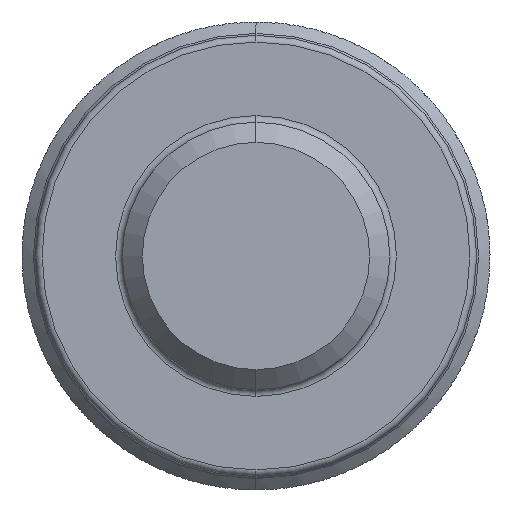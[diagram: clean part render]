
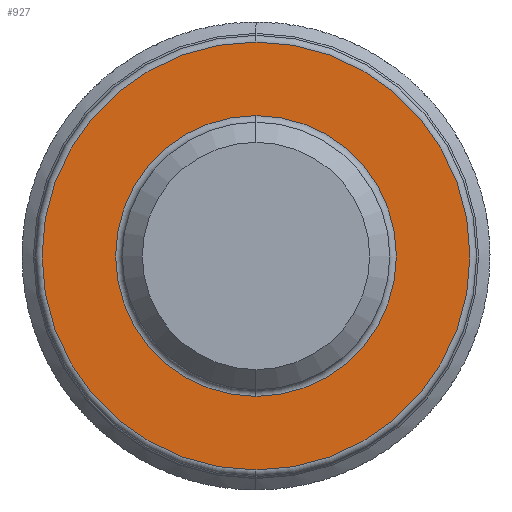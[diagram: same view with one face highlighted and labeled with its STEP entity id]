
A CAD part, front view. The second image highlights one B-rep face of the part: STEP entity #927.
In plain terms, the highlighted planar face has unit normal (0, -1, 0).
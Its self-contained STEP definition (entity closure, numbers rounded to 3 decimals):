
#403 = EDGE_CURVE ( 'NONE', #805, #8025, #4741, .T. ) ;
#424 = EDGE_LOOP ( 'NONE', ( #5488, #526 ) ) ;
#526 = ORIENTED_EDGE ( 'NONE', *, *, #403, .T. ) ;
#687 = DIRECTION ( 'NONE',  ( 0., 1., 0. ) ) ;
#805 = VERTEX_POINT ( 'NONE', #8438 ) ;
#877 = EDGE_CURVE ( 'NONE', #4051, #5527, #8705, .T. ) ;
#927 = ADVANCED_FACE ( 'NONE', ( #5892, #3437 ), #7300, .T. ) ;
#1227 = DIRECTION ( 'NONE',  ( 0., 1., 0. ) ) ;
#1918 = DIRECTION ( 'NONE',  ( 0., -1., 0. ) ) ;
#1919 = DIRECTION ( 'NONE',  ( 0., 0., -1. ) ) ;
#2620 = DIRECTION ( 'NONE',  ( 0., -1., 0. ) ) ;
#3217 = AXIS2_PLACEMENT_3D ( 'NONE', #4771, #687, #3974 ) ;
#3322 = DIRECTION ( 'NONE',  ( 0., 0., -1. ) ) ;
#3437 = FACE_OUTER_BOUND ( 'NONE', #424, .T. ) ;
#3974 = DIRECTION ( 'NONE',  ( 0., 0., -1. ) ) ;
#4051 = VERTEX_POINT ( 'NONE', #4980 ) ;
#4376 = CIRCLE ( 'NONE', #9872, 2.1 ) ;
#4395 = DIRECTION ( 'NONE',  ( 0., 0., -1. ) ) ;
#4407 = AXIS2_PLACEMENT_3D ( 'NONE', #6052, #1918, #4395 ) ;
#4460 = EDGE_CURVE ( 'NONE', #8025, #805, #7977, .T. ) ;
#4564 = CARTESIAN_POINT ( 'NONE',  ( 0., -4., 0. ) ) ;
#4640 = ORIENTED_EDGE ( 'NONE', *, *, #877, .T. ) ;
#4741 = CIRCLE ( 'NONE', #4407, 3.2 ) ;
#4771 = CARTESIAN_POINT ( 'NONE',  ( 0., -4., 0. ) ) ;
#4980 = CARTESIAN_POINT ( 'NONE',  ( 0., -4., -2.1 ) ) ;
#5167 = CARTESIAN_POINT ( 'NONE',  ( 0., -4., -3.2 ) ) ;
#5488 = ORIENTED_EDGE ( 'NONE', *, *, #4460, .T. ) ;
#5527 = VERTEX_POINT ( 'NONE', #10233 ) ;
#5892 = FACE_BOUND ( 'NONE', #8432, .T. ) ;
#6052 = CARTESIAN_POINT ( 'NONE',  ( 0., -4., 0. ) ) ;
#6091 = AXIS2_PLACEMENT_3D ( 'NONE', #9168, #8250, #3322 ) ;
#6460 = AXIS2_PLACEMENT_3D ( 'NONE', #6694, #2620, #1919 ) ;
#6563 = EDGE_CURVE ( 'NONE', #5527, #4051, #4376, .T. ) ;
#6694 = CARTESIAN_POINT ( 'NONE',  ( 2., -4., 0. ) ) ;
#6972 = DIRECTION ( 'NONE',  ( 0., 0., -1. ) ) ;
#7300 = PLANE ( 'NONE',  #6460 ) ;
#7977 = CIRCLE ( 'NONE', #6091, 3.2 ) ;
#8025 = VERTEX_POINT ( 'NONE', #5167 ) ;
#8250 = DIRECTION ( 'NONE',  ( 0., -1., 0. ) ) ;
#8432 = EDGE_LOOP ( 'NONE', ( #4640, #10152 ) ) ;
#8438 = CARTESIAN_POINT ( 'NONE',  ( 0., -4., 3.2 ) ) ;
#8705 = CIRCLE ( 'NONE', #3217, 2.1 ) ;
#9168 = CARTESIAN_POINT ( 'NONE',  ( 0., -4., 0. ) ) ;
#9872 = AXIS2_PLACEMENT_3D ( 'NONE', #4564, #1227, #6972 ) ;
#10152 = ORIENTED_EDGE ( 'NONE', *, *, #6563, .T. ) ;
#10233 = CARTESIAN_POINT ( 'NONE',  ( 0., -4., 2.1 ) ) ;
